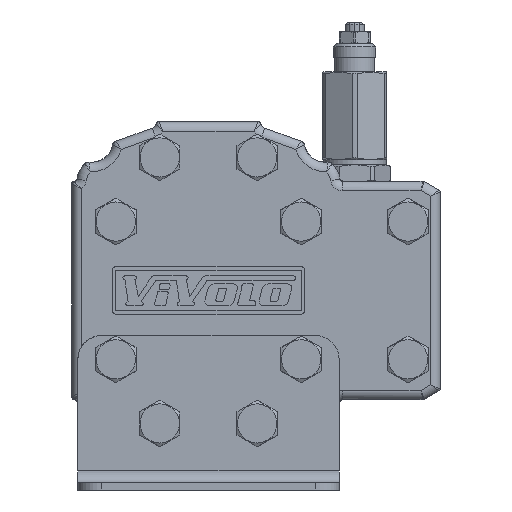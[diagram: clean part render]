
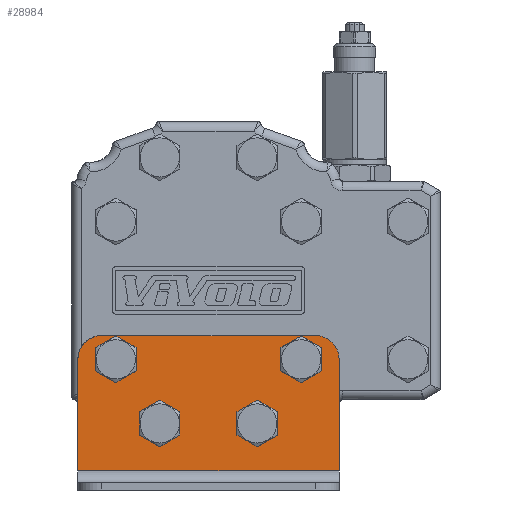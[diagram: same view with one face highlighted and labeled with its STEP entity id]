
A CAD part, front view. The second image highlights one B-rep face of the part: STEP entity #28984.
In plain terms, the highlighted planar face has unit normal (0, -1, 0).
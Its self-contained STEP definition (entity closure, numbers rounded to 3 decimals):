
#1539=CIRCLE('',#30402,8.);
#1540=CIRCLE('',#30404,8.);
#1541=CIRCLE('',#30406,8.);
#1542=CIRCLE('',#30408,8.);
#1568=CIRCLE('',#30475,10.);
#1569=CIRCLE('',#30476,10.);
#3935=ORIENTED_EDGE('',*,*,#8956,.T.);
#3936=ORIENTED_EDGE('',*,*,#8955,.T.);
#3937=ORIENTED_EDGE('',*,*,#8954,.T.);
#3938=ORIENTED_EDGE('',*,*,#8953,.T.);
#3939=ORIENTED_EDGE('',*,*,#9037,.T.);
#3940=ORIENTED_EDGE('',*,*,#9038,.T.);
#3941=ORIENTED_EDGE('',*,*,#9039,.T.);
#3942=ORIENTED_EDGE('',*,*,#9040,.T.);
#3943=ORIENTED_EDGE('',*,*,#9041,.F.);
#3944=ORIENTED_EDGE('',*,*,#9036,.F.);
#8953=EDGE_CURVE('',#11657,#11657,#1539,.T.);
#8954=EDGE_CURVE('',#11658,#11658,#1540,.T.);
#8955=EDGE_CURVE('',#11659,#11659,#1541,.T.);
#8956=EDGE_CURVE('',#11660,#11660,#1542,.T.);
#9036=EDGE_CURVE('',#11712,#11711,#13491,.T.);
#9037=EDGE_CURVE('',#11712,#11713,#13492,.T.);
#9038=EDGE_CURVE('',#11713,#11714,#1568,.T.);
#9039=EDGE_CURVE('',#11714,#11715,#13493,.T.);
#9040=EDGE_CURVE('',#11715,#11716,#1569,.T.);
#9041=EDGE_CURVE('',#11711,#11716,#13494,.T.);
#11657=VERTEX_POINT('',#44244);
#11658=VERTEX_POINT('',#44247);
#11659=VERTEX_POINT('',#44250);
#11660=VERTEX_POINT('',#44253);
#11711=VERTEX_POINT('',#44422);
#11712=VERTEX_POINT('',#44424);
#11713=VERTEX_POINT('',#44428);
#11714=VERTEX_POINT('',#44430);
#11715=VERTEX_POINT('',#44432);
#11716=VERTEX_POINT('',#44434);
#13491=LINE('',#44425,#14915);
#13492=LINE('',#44427,#14916);
#13493=LINE('',#44431,#14917);
#13494=LINE('',#44435,#14918);
#14915=VECTOR('',#33674,1000.);
#14916=VECTOR('',#33677,1000.);
#14917=VECTOR('',#33680,1000.);
#14918=VECTOR('',#33683,1000.);
#16276=EDGE_LOOP('',(#3935));
#16277=EDGE_LOOP('',(#3936));
#16278=EDGE_LOOP('',(#3937));
#16279=EDGE_LOOP('',(#3938));
#16280=EDGE_LOOP('',(#3939,#3940,#3941,#3942,#3943,#3944));
#17808=FACE_BOUND('',#16276,.T.);
#17809=FACE_BOUND('',#16277,.T.);
#17810=FACE_BOUND('',#16278,.T.);
#17811=FACE_BOUND('',#16279,.T.);
#17812=FACE_BOUND('',#16280,.T.);
#19144=PLANE('',#30474);
#28984=ADVANCED_FACE('',(#17808,#17809,#17810,#17811,#17812),#19144,.T.);
#30402=AXIS2_PLACEMENT_3D('',#44243,#33476,#33477);
#30404=AXIS2_PLACEMENT_3D('',#44246,#33480,#33481);
#30406=AXIS2_PLACEMENT_3D('',#44249,#33484,#33485);
#30408=AXIS2_PLACEMENT_3D('',#44252,#33488,#33489);
#30474=AXIS2_PLACEMENT_3D('',#44426,#33675,#33676);
#30475=AXIS2_PLACEMENT_3D('',#44429,#33678,#33679);
#30476=AXIS2_PLACEMENT_3D('',#44433,#33681,#33682);
#33476=DIRECTION('',(0.,1.,0.));
#33477=DIRECTION('',(0.,0.,1.));
#33480=DIRECTION('',(0.,1.,0.));
#33481=DIRECTION('',(0.,0.,1.));
#33484=DIRECTION('',(0.,1.,0.));
#33485=DIRECTION('',(0.,0.,1.));
#33488=DIRECTION('',(0.,1.,0.));
#33489=DIRECTION('',(0.,0.,1.));
#33674=DIRECTION('',(-1.,0.,0.));
#33675=DIRECTION('',(0.,-1.,0.));
#33676=DIRECTION('',(0.,0.,-1.));
#33677=DIRECTION('',(0.,0.,1.));
#33678=DIRECTION('',(0.,-1.,0.));
#33679=DIRECTION('',(0.,0.,-1.));
#33680=DIRECTION('',(-1.,0.,0.));
#33681=DIRECTION('',(0.,-1.,0.));
#33682=DIRECTION('',(0.,0.,-1.));
#33683=DIRECTION('',(0.,0.,1.));
#44243=CARTESIAN_POINT('',(20.5,-63.,-56.));
#44244=CARTESIAN_POINT('',(20.5,-63.,-48.));
#44246=CARTESIAN_POINT('',(-20.5,-63.,-56.));
#44247=CARTESIAN_POINT('',(-20.5,-63.,-48.));
#44249=CARTESIAN_POINT('',(-39.,-63.,-29.));
#44250=CARTESIAN_POINT('',(-39.,-63.,-21.));
#44252=CARTESIAN_POINT('',(39.,-63.,-29.));
#44253=CARTESIAN_POINT('',(39.,-63.,-21.));
#44422=CARTESIAN_POINT('',(-55.,-63.,-76.));
#44424=CARTESIAN_POINT('',(55.,-63.,-76.));
#44425=CARTESIAN_POINT('',(55.,-63.,-76.));
#44426=CARTESIAN_POINT('',(55.,-63.,-76.));
#44427=CARTESIAN_POINT('',(55.,-63.,-76.));
#44428=CARTESIAN_POINT('',(55.,-63.,-29.));
#44429=CARTESIAN_POINT('',(45.,-63.,-29.));
#44430=CARTESIAN_POINT('',(45.,-63.,-19.));
#44431=CARTESIAN_POINT('',(55.,-63.,-19.));
#44432=CARTESIAN_POINT('',(-45.,-63.,-19.));
#44433=CARTESIAN_POINT('',(-45.,-63.,-29.));
#44434=CARTESIAN_POINT('',(-55.,-63.,-29.));
#44435=CARTESIAN_POINT('',(-55.,-63.,-76.));
